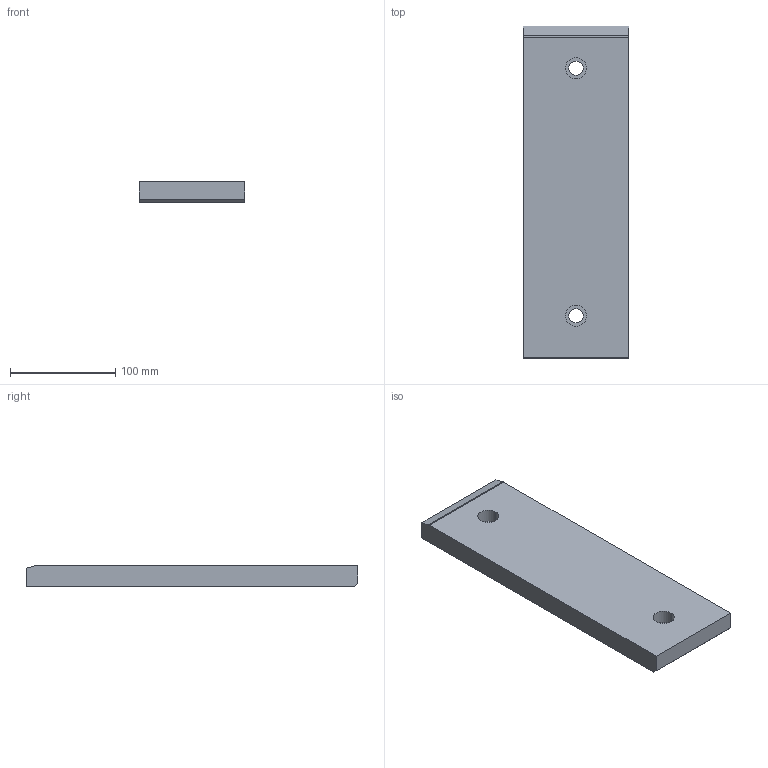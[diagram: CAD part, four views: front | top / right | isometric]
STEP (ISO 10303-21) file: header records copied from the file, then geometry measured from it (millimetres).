
FILE_DESCRIPTION (( 'STEP AP214' ), '1' );
FILE_NAME ('SW225-01-100x315.STEP', '2020-10-21T10:15:55', ( 'August' ), ( '' ), 'SwSTEP 2.0', 'SolidWorks 2018', '' );
FILE_SCHEMA (( 'AUTOMOTIVE_DESIGN' ));
Length unit declared in the file: millimetre
Products named in the file (1): SW225-01-100x315
Bounding box: 100 x 315 x 20 mm (x, y, z)
Volume: 618036.3 mm3; surface area: 80809.8 mm2
Topology: 1 solids, 1 shells, 19 faces, 45 edges, 30 vertices
Faces by surface type: plane 10, cylinder 9
Entity records: 599 total; most frequent: DIRECTION 103, CARTESIAN_POINT 95, ORIENTED_EDGE 90, EDGE_CURVE 45, AXIS2_PLACEMENT_3D 38, VERTEX_POINT 30, VECTOR 27, LINE 27
